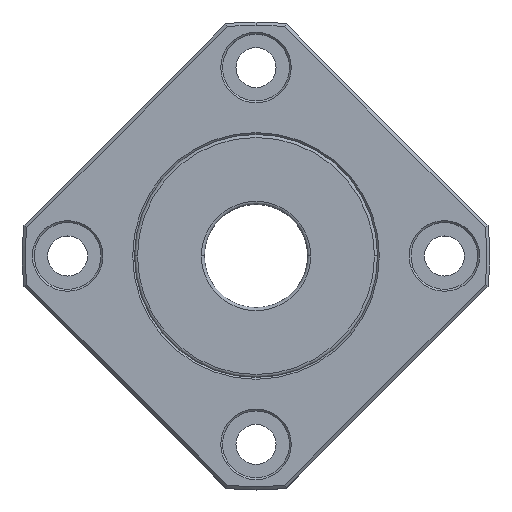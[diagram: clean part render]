
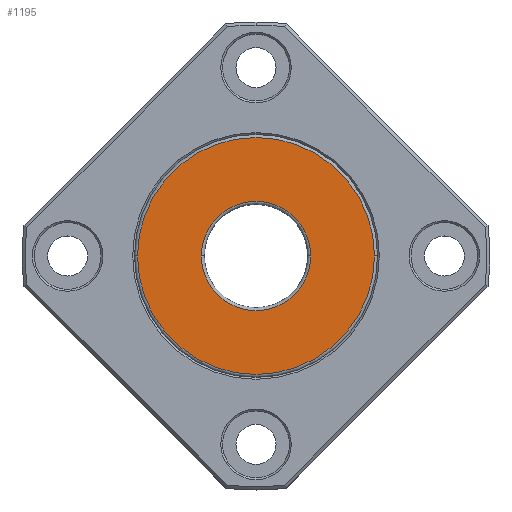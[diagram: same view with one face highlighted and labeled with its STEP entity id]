
A CAD part, top view. The second image highlights one B-rep face of the part: STEP entity #1195.
In plain terms, the highlighted planar face has unit normal (0, 0, 1).
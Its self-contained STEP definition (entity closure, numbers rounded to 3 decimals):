
#127 = EDGE_LOOP ( 'NONE', ( #1983, #1985 ) ) ;
#132 = EDGE_LOOP ( 'NONE', ( #1982, #1968 ) ) ;
#192 = FACE_OUTER_BOUND ( 'NONE', #132, .T. ) ;
#228 = FACE_BOUND ( 'NONE', #127, .T. ) ;
#269 = AXIS2_PLACEMENT_3D ( 'NONE', #1569, #1570, #1571 ) ;
#288 = AXIS2_PLACEMENT_3D ( 'NONE', #1430, #1431, #1432 ) ;
#359 = AXIS2_PLACEMENT_3D ( 'NONE', #606, #607, #608 ) ;
#366 = AXIS2_PLACEMENT_3D ( 'NONE', #1798, #1799, #1800 ) ;
#536 = AXIS2_PLACEMENT_3D ( 'NONE', #1898, #1899, #1900 ) ;
#605 = PLANE ( 'NONE',  #359 ) ;
#606 = CARTESIAN_POINT ( 'NONE',  ( 0., 0., 6. ) ) ;
#607 = DIRECTION ( 'NONE',  ( 0., 0., 1. ) ) ;
#608 = DIRECTION ( 'NONE',  ( 1., 0., 0. ) ) ;
#799 = CARTESIAN_POINT ( 'NONE',  ( 9., 0., 6. ) ) ;
#803 = CARTESIAN_POINT ( 'NONE',  ( 19.5, 0., 6. ) ) ;
#826 = CARTESIAN_POINT ( 'NONE',  ( -19.5, 0., 6. ) ) ;
#829 = CARTESIAN_POINT ( 'NONE',  ( -9., 0., 6. ) ) ;
#966 = EDGE_CURVE ( 'NONE', #2072, #1998, #1178, .T. ) ;
#1010 = EDGE_CURVE ( 'NONE', #2075, #1987, #1152, .T. ) ;
#1086 = EDGE_CURVE ( 'NONE', #1987, #2075, #1279, .T. ) ;
#1118 = EDGE_CURVE ( 'NONE', #1998, #2072, #1292, .T. ) ;
#1152 = CIRCLE ( 'NONE', #269, 9. ) ;
#1178 = CIRCLE ( 'NONE', #288, 19.5 ) ;
#1195 = ADVANCED_FACE ( 'NONE', ( #228, #192 ), #605, .T. ) ;
#1279 = CIRCLE ( 'NONE', #366, 9. ) ;
#1292 = CIRCLE ( 'NONE', #536, 19.5 ) ;
#1430 = CARTESIAN_POINT ( 'NONE',  ( 0., 0., 6. ) ) ;
#1431 = DIRECTION ( 'NONE',  ( 0., 0., 1. ) ) ;
#1432 = DIRECTION ( 'NONE',  ( 1., 0., 0. ) ) ;
#1569 = CARTESIAN_POINT ( 'NONE',  ( 0., 0., 6. ) ) ;
#1570 = DIRECTION ( 'NONE',  ( 0., 0., -1. ) ) ;
#1571 = DIRECTION ( 'NONE',  ( 1., 0., 0. ) ) ;
#1798 = CARTESIAN_POINT ( 'NONE',  ( 0., 0., 6. ) ) ;
#1799 = DIRECTION ( 'NONE',  ( 0., 0., -1. ) ) ;
#1800 = DIRECTION ( 'NONE',  ( 1., 0., 0. ) ) ;
#1898 = CARTESIAN_POINT ( 'NONE',  ( 0., 0., 6. ) ) ;
#1899 = DIRECTION ( 'NONE',  ( 0., 0., 1. ) ) ;
#1900 = DIRECTION ( 'NONE',  ( 1., 0., 0. ) ) ;
#1968 = ORIENTED_EDGE ( 'NONE', *, *, #966, .T. ) ;
#1982 = ORIENTED_EDGE ( 'NONE', *, *, #1118, .T. ) ;
#1983 = ORIENTED_EDGE ( 'NONE', *, *, #1086, .T. ) ;
#1985 = ORIENTED_EDGE ( 'NONE', *, *, #1010, .T. ) ;
#1987 = VERTEX_POINT ( 'NONE', #799 ) ;
#1998 = VERTEX_POINT ( 'NONE', #803 ) ;
#2072 = VERTEX_POINT ( 'NONE', #826 ) ;
#2075 = VERTEX_POINT ( 'NONE', #829 ) ;
